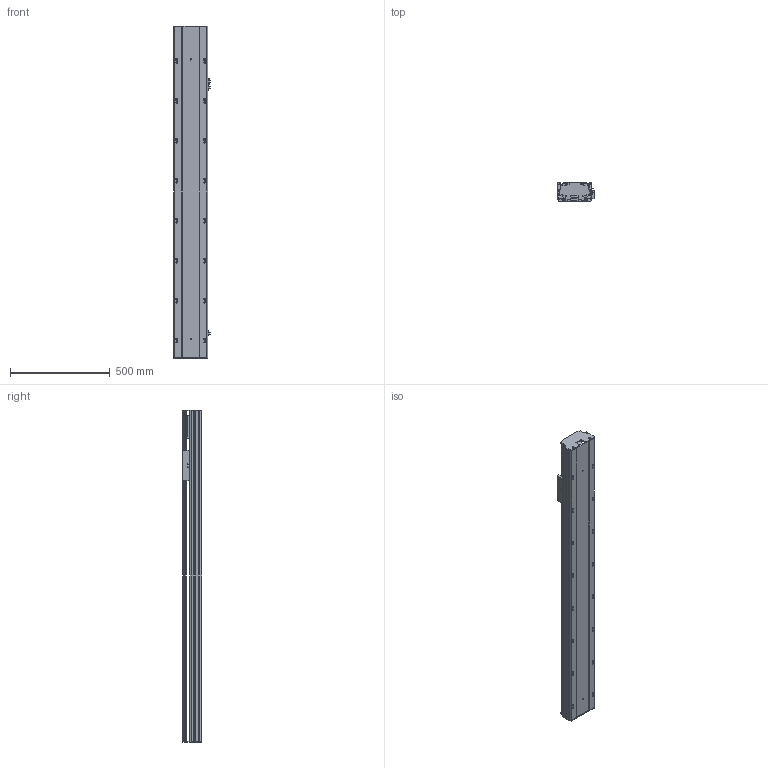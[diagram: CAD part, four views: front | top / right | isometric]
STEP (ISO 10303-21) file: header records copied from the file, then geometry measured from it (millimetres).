
FILE_DESCRIPTION (( 'STEP AP203' ), '1' );
FILE_NAME ('Y170-D10-S1250-M-P400W.STEP', '2020-01-22T13:56:22', ( '微软用户' ), ( '微软中国' ), 'SwSTEP 2.0', 'SolidWorks 2017', '' );
FILE_SCHEMA (( 'CONFIG_CONTROL_DESIGN' ));
Length unit declared in the file: millimetre
Products named in the file (10): san松下电机400不带刹车----; Y170-陔遴奻裔-M; YD-Y100-135-新外置传感挡片(通用）; Y170-D10-S1250-M-P400W; Y100-135俋离換覜ん; 135-盓傅釱-FK15; Y170耜裔--準---; Y170--雄赽釱-梓--; 170--掛极-M; Y170耜裔--準---M
Assembly tree (11 placements, depth 2):
  Y170-D10-S1250-M-P400W
    YD-Y100-135-新外置传感挡片(通用）
    Y100-135俋离換覜ん  x3
    135-盓傅釱-FK15
    Y170耜裔--準---
    Y170--雄赽釱-梓--
    170--掛极-M
    Y170耜裔--準---M
    san松下电机400不带刹车----
    Y170-陔遴奻裔-M
Bounding box: 183.5 x 97 x 1661 mm (x, y, z)
Volume: 6972030.9 mm3; surface area: 2493382.4 mm2
Topology: 11 solids, 11 shells, 809 faces, 2324 edges, 1540 vertices
Faces by surface type: cylinder 423, plane 384, torus 2
Entity records: 26540 total; most frequent: CARTESIAN_POINT 4833, DIRECTION 4382, ORIENTED_EDGE 4312, EDGE_CURVE 2156, AXIS2_PLACEMENT_3D 1561, VERTEX_POINT 1428, LINE 1260, VECTOR 1260
